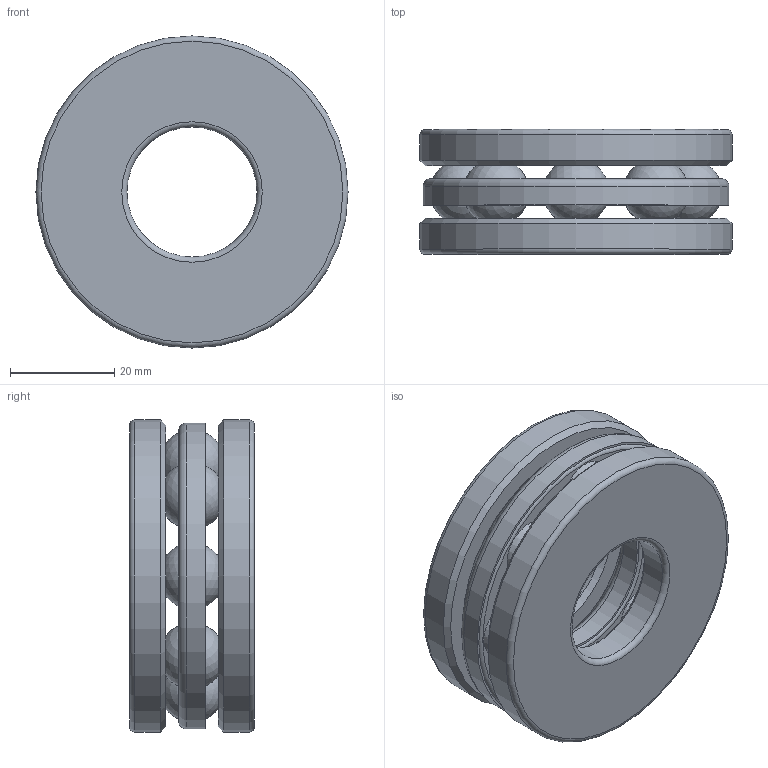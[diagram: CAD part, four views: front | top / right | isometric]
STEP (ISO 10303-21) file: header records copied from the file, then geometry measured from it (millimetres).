
FILE_DESCRIPTION(/* description */ (''),/* implementation_level */ '2;1');
FILE_NAME(/* name */ 'D:\moje\parametrické\514--\514--_\51405.stp',/* time_stamp */ '2016-08-17T07:44:12+02:00',/* author */ ('OUBALASKO'),/* organization */ (''),/* preprocessor_version */ 'ST-DEVELOPER v15.6',/* originating_system */ 'Autodesk Inventor 2015',/* authorisation */ '');
FILE_SCHEMA (('AUTOMOTIVE_DESIGN { 1 0 10303 214 3 1 1 }'));
Length unit declared in the file: millimetre
Products named in the file (7): 51405-TK; 51405-HK; 51405-ball; 51405-cage01; 51405-cage02; 51405-cage; 51405
Assembly tree (13 placements, depth 3):
  51405
    51405-TK
    51405-HK
    51405-ball  x8
    51405-cage
      51405-cage01
      51405-cage02
Bounding box: 60 x 24 x 60 mm (x, y, z)
Volume: 40010 mm3; surface area: 25412.2 mm2
Topology: 12 solids, 12 shells, 68 faces, 130 edges, 92 vertices
Faces by surface type: sphere 24, plane 14, torus 14, cylinder 12, cone 4
Full cylindrical faces by diameter (mm): 25 x1, 27 x1, 28.187 x1, 29.076 x1, 29.34 x1, 30.229 x1, 56.772 x1, 57.66 x1, 57.924 x1, 58.813 x1, 60 x2
Entity records: 1672 total; most frequent: DIRECTION 316, CARTESIAN_POINT 236, AXIS2_PLACEMENT_3D 158, ORIENTED_EDGE 154, EDGE_LOOP 153, FACE_BOUND 92, VERTEX_POINT 78, CIRCLE 77
